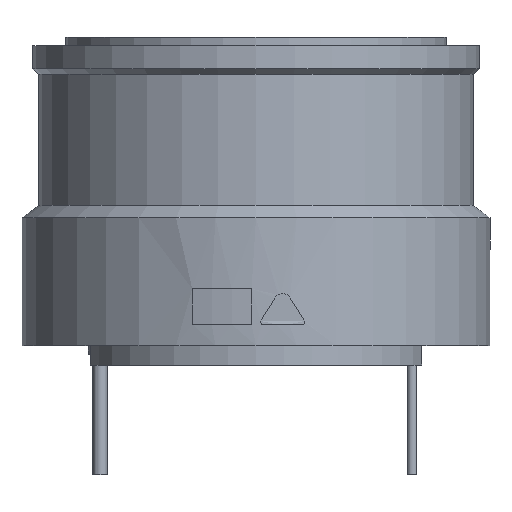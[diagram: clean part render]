
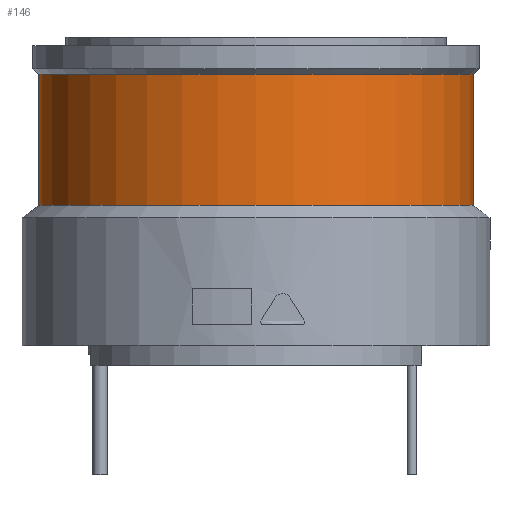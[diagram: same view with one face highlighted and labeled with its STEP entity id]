
A CAD part, left-side view. The second image highlights one B-rep face of the part: STEP entity #146.
In plain terms, the highlighted cylindrical face has radius 122.5 mm (diameter 245 mm), a partial arc.
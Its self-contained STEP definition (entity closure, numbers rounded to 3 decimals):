
#134 = ORIENTED_EDGE ( 'NONE', *, *, #159, .F. ) ;
#135 = ORIENTED_EDGE ( 'NONE', *, *, #4114, .T. ) ;
#140 = ORIENTED_EDGE ( 'NONE', *, *, #142, .T. ) ;
#142 = EDGE_CURVE ( 'NONE', #4528, #4460, #898, .T. ) ;
#145 = ORIENTED_EDGE ( 'NONE', *, *, #4123, .F. ) ;
#146 = ADVANCED_FACE ( 'NONE', ( #889 ), #844, .T. ) ;
#150 = EDGE_LOOP ( 'NONE', ( #145, #140, #135, #134 ) ) ;
#159 = EDGE_CURVE ( 'NONE', #4978, #398, #932, .T. ) ;
#398 = VERTEX_POINT ( 'NONE', #1362 ) ;
#844 = CYLINDRICAL_SURFACE ( 'NONE', #885, 122.5 ) ;
#879 = DIRECTION ( 'NONE',  ( 0., 1., 0. ) ) ;
#880 = DIRECTION ( 'NONE',  ( 0., 0., -1. ) ) ;
#881 = CARTESIAN_POINT ( 'NONE',  ( 0., 0., -72.556 ) ) ;
#885 = AXIS2_PLACEMENT_3D ( 'NONE', #881, #880, #879 ) ;
#886 = DIRECTION ( 'NONE',  ( 0., 1., 0. ) ) ;
#887 = DIRECTION ( 'NONE',  ( 0., 0., -1. ) ) ;
#888 = AXIS2_PLACEMENT_3D ( 'NONE', #907, #887, #886 ) ;
#889 = FACE_OUTER_BOUND ( 'NONE', #150, .T. ) ;
#898 = CIRCLE ( 'NONE', #888, 122.5 ) ;
#907 = CARTESIAN_POINT ( 'NONE',  ( 0., 0., 164. ) ) ;
#924 = DIRECTION ( 'NONE',  ( 0., 1., 0. ) ) ;
#925 = DIRECTION ( 'NONE',  ( 0., 0., -1. ) ) ;
#926 = CARTESIAN_POINT ( 'NONE',  ( 0., 0., 90. ) ) ;
#932 = CIRCLE ( 'NONE', #937, 122.5 ) ;
#937 = AXIS2_PLACEMENT_3D ( 'NONE', #926, #925, #924 ) ;
#1362 = CARTESIAN_POINT ( 'NONE',  ( 0., 122.5, 90. ) ) ;
#1880 = DIRECTION ( 'NONE',  ( 0., 0., -1. ) ) ;
#1881 = VECTOR ( 'NONE', #1880, 1000. ) ;
#1882 = CARTESIAN_POINT ( 'NONE',  ( 0., -122.5, -72.556 ) ) ;
#1898 = DIRECTION ( 'NONE',  ( 0., 0., -1. ) ) ;
#1899 = VECTOR ( 'NONE', #1898, 1000. ) ;
#1900 = LINE ( 'NONE', #1882, #1881 ) ;
#1906 = CARTESIAN_POINT ( 'NONE',  ( 0., 122.5, -72.556 ) ) ;
#1907 = LINE ( 'NONE', #1906, #1899 ) ;
#2504 = CARTESIAN_POINT ( 'NONE',  ( 0., 122.5, 164. ) ) ;
#2635 = CARTESIAN_POINT ( 'NONE',  ( 0., -122.5, 164. ) ) ;
#3388 = CARTESIAN_POINT ( 'NONE',  ( 0., -122.5, 90. ) ) ;
#4114 = EDGE_CURVE ( 'NONE', #4460, #398, #1907, .T. ) ;
#4123 = EDGE_CURVE ( 'NONE', #4528, #4978, #1900, .T. ) ;
#4460 = VERTEX_POINT ( 'NONE', #2504 ) ;
#4528 = VERTEX_POINT ( 'NONE', #2635 ) ;
#4978 = VERTEX_POINT ( 'NONE', #3388 ) ;
